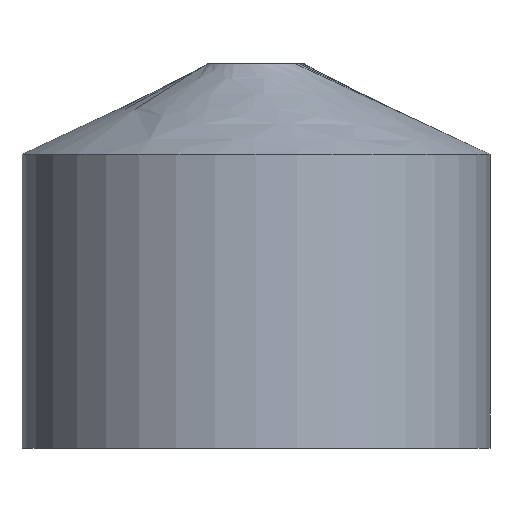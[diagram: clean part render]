
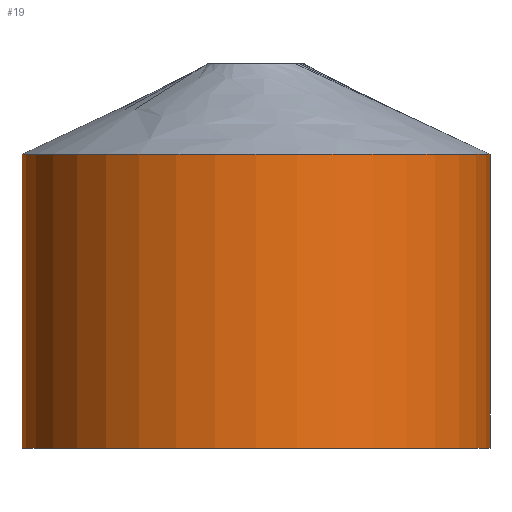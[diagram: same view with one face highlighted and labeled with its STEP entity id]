
A CAD part, front view. The second image highlights one B-rep face of the part: STEP entity #19.
In plain terms, the highlighted cylindrical face has radius 10.75 mm (diameter 21.5 mm), a partial arc.
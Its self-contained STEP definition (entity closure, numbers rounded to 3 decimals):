
#2 = EDGE_CURVE ( 'NONE', #144, #203, #196, .T. ) ;
#17 = AXIS2_PLACEMENT_3D ( 'NONE', #105, #60, #59 ) ;
#19 = ADVANCED_FACE ( 'NONE', ( #52 ), #208, .T. ) ;
#20 = CARTESIAN_POINT ( 'NONE',  ( 10.75, 0., 13.5 ) ) ;
#32 = EDGE_CURVE ( 'NONE', #41, #77, #42, .T. ) ;
#40 = EDGE_CURVE ( 'NONE', #41, #203, #152, .T. ) ;
#41 = VERTEX_POINT ( 'NONE', #20 ) ;
#42 = CIRCLE ( 'NONE', #17, 10.75 ) ;
#52 = FACE_OUTER_BOUND ( 'NONE', #118, .T. ) ;
#59 = DIRECTION ( 'NONE',  ( -1., 0., 0. ) ) ;
#60 = DIRECTION ( 'NONE',  ( 0., 0., -1. ) ) ;
#70 = CARTESIAN_POINT ( 'NONE',  ( 0., 0., 13.5 ) ) ;
#77 = VERTEX_POINT ( 'NONE', #99 ) ;
#85 = DIRECTION ( 'NONE',  ( -1., 0., 0. ) ) ;
#87 = DIRECTION ( 'NONE',  ( 0., 0., -1. ) ) ;
#97 = DIRECTION ( 'NONE',  ( 0., 0., -1. ) ) ;
#99 = CARTESIAN_POINT ( 'NONE',  ( -10.75, 0., 13.5 ) ) ;
#105 = CARTESIAN_POINT ( 'NONE',  ( 0., 0., 13.5 ) ) ;
#112 = CARTESIAN_POINT ( 'NONE',  ( -10.75, 0., 13.5 ) ) ;
#118 = EDGE_LOOP ( 'NONE', ( #140, #180, #284, #162 ) ) ;
#140 = ORIENTED_EDGE ( 'NONE', *, *, #40, .F. ) ;
#143 = CARTESIAN_POINT ( 'NONE',  ( 10.75, 0., 13.5 ) ) ;
#144 = VERTEX_POINT ( 'NONE', #245 ) ;
#152 = LINE ( 'NONE', #143, #288 ) ;
#155 = DIRECTION ( 'NONE',  ( -1., 0., 0. ) ) ;
#162 = ORIENTED_EDGE ( 'NONE', *, *, #2, .T. ) ;
#168 = AXIS2_PLACEMENT_3D ( 'NONE', #70, #87, #85 ) ;
#178 = EDGE_CURVE ( 'NONE', #77, #144, #231, .T. ) ;
#179 = CARTESIAN_POINT ( 'NONE',  ( 0., 0., 0. ) ) ;
#180 = ORIENTED_EDGE ( 'NONE', *, *, #32, .T. ) ;
#196 = CIRCLE ( 'NONE', #267, 10.75 ) ;
#201 = DIRECTION ( 'NONE',  ( 0., 0., 1. ) ) ;
#203 = VERTEX_POINT ( 'NONE', #207 ) ;
#204 = DIRECTION ( 'NONE',  ( 0., 0., -1. ) ) ;
#207 = CARTESIAN_POINT ( 'NONE',  ( 10.75, 0., 0. ) ) ;
#208 = CYLINDRICAL_SURFACE ( 'NONE', #168, 10.75 ) ;
#231 = LINE ( 'NONE', #112, #260 ) ;
#245 = CARTESIAN_POINT ( 'NONE',  ( -10.75, 0., 0. ) ) ;
#260 = VECTOR ( 'NONE', #204, 1000. ) ;
#267 = AXIS2_PLACEMENT_3D ( 'NONE', #179, #201, #155 ) ;
#284 = ORIENTED_EDGE ( 'NONE', *, *, #178, .T. ) ;
#288 = VECTOR ( 'NONE', #97, 1000. ) ;
